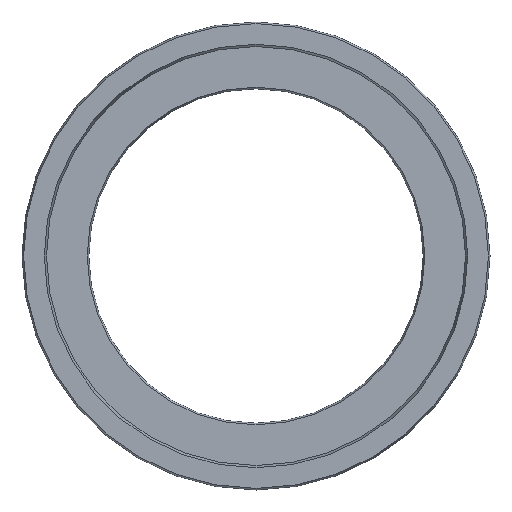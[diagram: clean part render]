
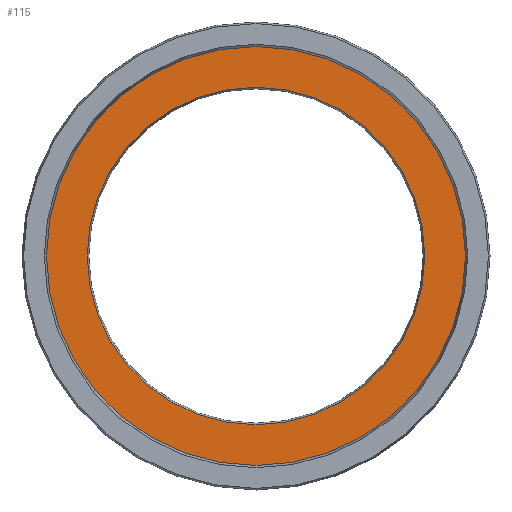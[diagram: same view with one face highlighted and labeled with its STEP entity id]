
A CAD part, left-side view. The second image highlights one B-rep face of the part: STEP entity #115.
In plain terms, the highlighted planar face has unit normal (-1, 0, 0).
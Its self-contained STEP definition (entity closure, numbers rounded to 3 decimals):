
#115=ADVANCED_FACE('',(#149,#150),#141,.F.);
#141=PLANE('',#386);
#149=FACE_BOUND('',#201,.T.);
#150=FACE_BOUND('',#202,.T.);
#201=EDGE_LOOP('',(#253));
#202=EDGE_LOOP('',(#254));
#253=ORIENTED_EDGE('',*,*,#331,.T.);
#254=ORIENTED_EDGE('',*,*,#332,.T.);
#305=VERTEX_POINT('',#544);
#306=VERTEX_POINT('',#546);
#331=EDGE_CURVE('',#305,#305,#357,.T.);
#332=EDGE_CURVE('',#306,#306,#358,.T.);
#357=CIRCLE('',#384,37.864);
#358=CIRCLE('',#385,47.);
#384=AXIS2_PLACEMENT_3D('',#543,#438,#439);
#385=AXIS2_PLACEMENT_3D('',#545,#440,#441);
#386=AXIS2_PLACEMENT_3D('',#547,#442,#443);
#438=DIRECTION('',(1.,0.,0.));
#439=DIRECTION('',(0.,0.,-1.));
#440=DIRECTION('',(-1.,0.,0.));
#441=DIRECTION('',(0.,0.,1.));
#442=DIRECTION('',(1.,0.,0.));
#443=DIRECTION('',(0.,0.,-1.));
#543=CARTESIAN_POINT('',(0.,0.,0.));
#544=CARTESIAN_POINT('',(0.,0.,-37.864));
#545=CARTESIAN_POINT('',(0.,0.,0.));
#546=CARTESIAN_POINT('',(0.,0.,47.));
#547=CARTESIAN_POINT('',(0.,47.,0.));
